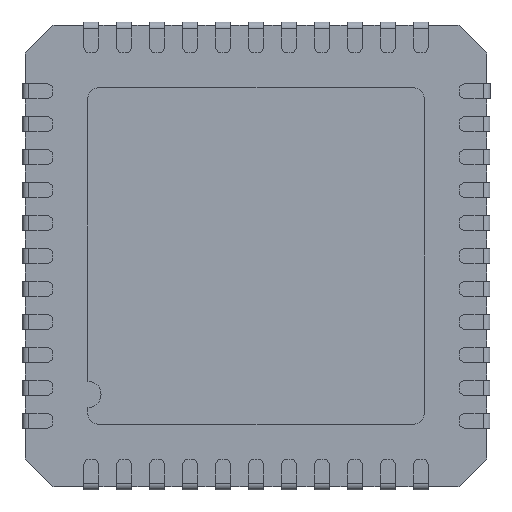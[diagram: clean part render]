
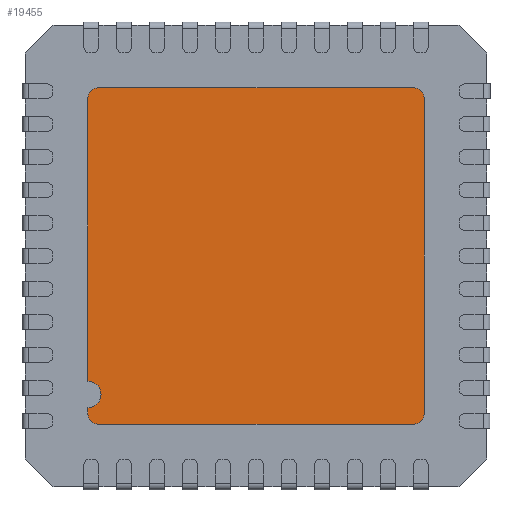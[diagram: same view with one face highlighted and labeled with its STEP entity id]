
A CAD part, front view. The second image highlights one B-rep face of the part: STEP entity #19455.
In plain terms, the highlighted planar face has unit normal (0, -1, 0).
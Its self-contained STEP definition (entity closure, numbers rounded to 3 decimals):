
#10315 = CARTESIAN_POINT ( 'NONE',  ( 2.4, 0., -2.4 ) ) ;
#10317 = CARTESIAN_POINT ( 'NONE',  ( 2.55, 0., -2.4 ) ) ;
#10406 = CARTESIAN_POINT ( 'NONE',  ( 2.4, 0., -2.55 ) ) ;
#10407 = DIRECTION ( 'NONE',  ( 0., 0., 1. ) ) ;
#10408 = DIRECTION ( 'NONE',  ( 0., -1., 0. ) ) ;
#10409 = AXIS2_PLACEMENT_3D ( 'NONE', #10315, #10408, #10407 ) ;
#10410 = CIRCLE ( 'NONE', #10409, 0.15 ) ;
#10484 = DIRECTION ( 'NONE',  ( 0., 0., 1. ) ) ;
#10485 = DIRECTION ( 'NONE',  ( 0., -1., 0. ) ) ;
#10486 = CARTESIAN_POINT ( 'NONE',  ( -2.4, 0., -2.4 ) ) ;
#10487 = AXIS2_PLACEMENT_3D ( 'NONE', #10486, #10485, #10484 ) ;
#10488 = CIRCLE ( 'NONE', #10487, 0.15 ) ;
#10490 = CARTESIAN_POINT ( 'NONE',  ( -2.4, 0., -2.55 ) ) ;
#10513 = CARTESIAN_POINT ( 'NONE',  ( -2.55, 0., -2.4 ) ) ;
#10612 = DIRECTION ( 'NONE',  ( -1., 0., 0. ) ) ;
#10614 = VECTOR ( 'NONE', #10612, 1000. ) ;
#10616 = CARTESIAN_POINT ( 'NONE',  ( 2.4, 0., 2.55 ) ) ;
#10617 = LINE ( 'NONE', #10616, #10614 ) ;
#10621 = DIRECTION ( 'NONE',  ( 0., 0., -1. ) ) ;
#10622 = VECTOR ( 'NONE', #10621, 1000. ) ;
#10623 = CARTESIAN_POINT ( 'NONE',  ( -2.55, 0., -2.3 ) ) ;
#10624 = LINE ( 'NONE', #10623, #10622 ) ;
#10645 = DIRECTION ( 'NONE',  ( 0., 0., -1. ) ) ;
#10646 = DIRECTION ( 'NONE',  ( 0., -1., 0. ) ) ;
#10647 = CARTESIAN_POINT ( 'NONE',  ( -2.4, 0., 2.4 ) ) ;
#10648 = AXIS2_PLACEMENT_3D ( 'NONE', #10647, #10646, #10645 ) ;
#10649 = CIRCLE ( 'NONE', #10648, 0.15 ) ;
#10663 = DIRECTION ( 'NONE',  ( 0., 0., -1. ) ) ;
#10664 = DIRECTION ( 'NONE',  ( 0., 1., 0. ) ) ;
#10665 = CARTESIAN_POINT ( 'NONE',  ( -2.55, 0., -2.1 ) ) ;
#10666 = AXIS2_PLACEMENT_3D ( 'NONE', #10665, #10664, #10663 ) ;
#10667 = CIRCLE ( 'NONE', #10666, 0.2 ) ;
#10690 = CARTESIAN_POINT ( 'NONE',  ( -2.55, 0., -2.3 ) ) ;
#11096 = CARTESIAN_POINT ( 'NONE',  ( -2.4, 0., 2.55 ) ) ;
#11135 = DIRECTION ( 'NONE',  ( 0., 0., -1. ) ) ;
#11136 = VECTOR ( 'NONE', #11135, 1000. ) ;
#11137 = CARTESIAN_POINT ( 'NONE',  ( -2.55, 0., 2.4 ) ) ;
#11138 = LINE ( 'NONE', #11137, #11136 ) ;
#11140 = CARTESIAN_POINT ( 'NONE',  ( -2.55, 0., -1.9 ) ) ;
#11146 = CARTESIAN_POINT ( 'NONE',  ( -2.55, 0., 2.4 ) ) ;
#11239 = DIRECTION ( 'NONE',  ( 0., 0., 1. ) ) ;
#11240 = DIRECTION ( 'NONE',  ( 0., -1., 0. ) ) ;
#11241 = CARTESIAN_POINT ( 'NONE',  ( 2.4, 0., 2.4 ) ) ;
#11242 = AXIS2_PLACEMENT_3D ( 'NONE', #11241, #11240, #11239 ) ;
#11243 = CIRCLE ( 'NONE', #11242, 0.15 ) ;
#11245 = CARTESIAN_POINT ( 'NONE',  ( 2.4, 0., 2.55 ) ) ;
#11443 = FACE_OUTER_BOUND ( 'NONE', #19456, .T. ) ;
#11444 = DIRECTION ( 'NONE',  ( 1., 0., 0. ) ) ;
#11445 = VECTOR ( 'NONE', #11444, 1000. ) ;
#11446 = CARTESIAN_POINT ( 'NONE',  ( 2.4, 0., -2.55 ) ) ;
#11447 = LINE ( 'NONE', #11446, #11445 ) ;
#11536 = DIRECTION ( 'NONE',  ( 0., 0., 1. ) ) ;
#11537 = DIRECTION ( 'NONE',  ( 0., 1., 0. ) ) ;
#11538 = CARTESIAN_POINT ( 'NONE',  ( 2.4, 0., -2.4 ) ) ;
#11539 = AXIS2_PLACEMENT_3D ( 'NONE', #11538, #11537, #11536 ) ;
#11542 = PLANE ( 'NONE',  #11539 ) ;
#11618 = DIRECTION ( 'NONE',  ( 0., 0., 1. ) ) ;
#11619 = VECTOR ( 'NONE', #11618, 1000. ) ;
#11620 = CARTESIAN_POINT ( 'NONE',  ( 2.55, 0., 2.4 ) ) ;
#11621 = LINE ( 'NONE', #11620, #11619 ) ;
#11689 = CARTESIAN_POINT ( 'NONE',  ( 2.55, 0., 2.4 ) ) ;
#19191 = VERTEX_POINT ( 'NONE', #10317 ) ;
#19193 = EDGE_CURVE ( 'NONE', #19194, #19191, #10410, .T. ) ;
#19194 = VERTEX_POINT ( 'NONE', #10406 ) ;
#19228 = ORIENTED_EDGE ( 'NONE', *, *, #19365, .T. ) ;
#19229 = ORIENTED_EDGE ( 'NONE', *, *, #19251, .T. ) ;
#19230 = ORIENTED_EDGE ( 'NONE', *, *, #19267, .T. ) ;
#19231 = ORIENTED_EDGE ( 'NONE', *, *, #19353, .T. ) ;
#19232 = ORIENTED_EDGE ( 'NONE', *, *, #19241, .T. ) ;
#19233 = ORIENTED_EDGE ( 'NONE', *, *, #19250, .T. ) ;
#19234 = ORIENTED_EDGE ( 'NONE', *, *, #19261, .T. ) ;
#19235 = ORIENTED_EDGE ( 'NONE', *, *, #19453, .T. ) ;
#19239 = VERTEX_POINT ( 'NONE', #10690 ) ;
#19241 = EDGE_CURVE ( 'NONE', #19351, #19239, #10667, .T. ) ;
#19248 = VERTEX_POINT ( 'NONE', #10513 ) ;
#19250 = EDGE_CURVE ( 'NONE', #19239, #19248, #10624, .T. ) ;
#19251 = EDGE_CURVE ( 'NONE', #19363, #19372, #10617, .T. ) ;
#19259 = VERTEX_POINT ( 'NONE', #10490 ) ;
#19261 = EDGE_CURVE ( 'NONE', #19248, #19259, #10488, .T. ) ;
#19267 = EDGE_CURVE ( 'NONE', #19372, #19346, #10649, .T. ) ;
#19346 = VERTEX_POINT ( 'NONE', #11146 ) ;
#19351 = VERTEX_POINT ( 'NONE', #11140 ) ;
#19353 = EDGE_CURVE ( 'NONE', #19346, #19351, #11138, .T. ) ;
#19363 = VERTEX_POINT ( 'NONE', #11245 ) ;
#19365 = EDGE_CURVE ( 'NONE', #19479, #19363, #11243, .T. ) ;
#19372 = VERTEX_POINT ( 'NONE', #11096 ) ;
#19453 = EDGE_CURVE ( 'NONE', #19259, #19194, #11447, .T. ) ;
#19455 = ADVANCED_FACE ( 'NONE', ( #11443 ), #11542, .F. ) ;
#19456 = EDGE_LOOP ( 'NONE', ( #19457, #19458, #19228, #19229, #19230, #19231, #19232, #19233, #19234, #19235 ) ) ;
#19457 = ORIENTED_EDGE ( 'NONE', *, *, #19193, .T. ) ;
#19458 = ORIENTED_EDGE ( 'NONE', *, *, #19481, .T. ) ;
#19479 = VERTEX_POINT ( 'NONE', #11689 ) ;
#19481 = EDGE_CURVE ( 'NONE', #19191, #19479, #11621, .T. ) ;
